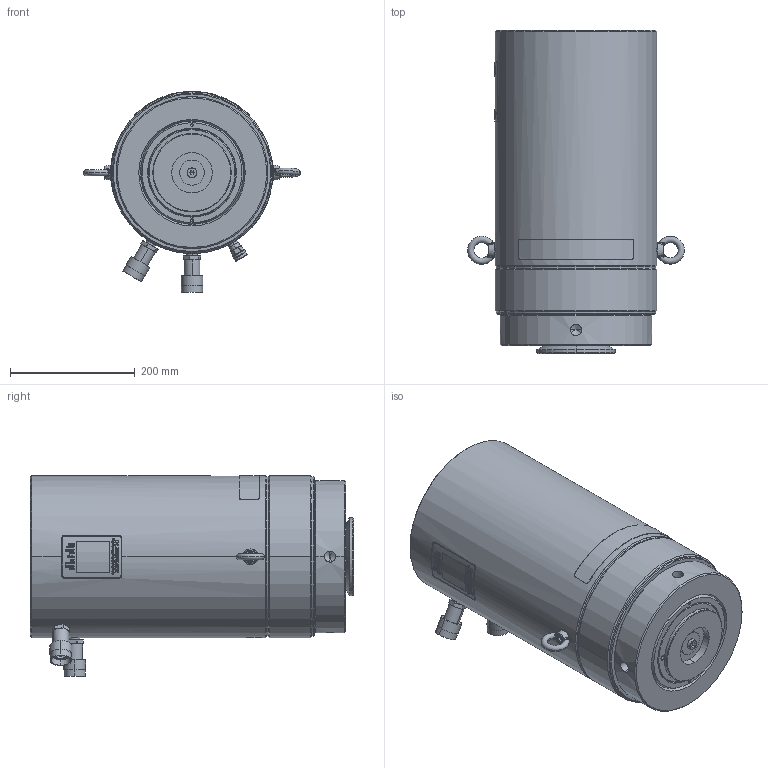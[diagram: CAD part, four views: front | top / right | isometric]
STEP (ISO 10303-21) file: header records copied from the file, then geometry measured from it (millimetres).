
FILE_DESCRIPTION((''),'2;1');
FILE_NAME('HCRL20010','2018-06-01T',('mike.ward'),(''),'CREO PARAMETRIC BY PTC INC, 2017020','CREO PARAMETRIC BY PTC INC, 2017020','');
FILE_SCHEMA(('CONFIG_CONTROL_DESIGN'));
Products named in the file (1): HCRL20010
Bounding box: 347.83 x 518.88 x 322.65 mm (x, y, z)
Volume: 22022175.2 mm3; surface area: 1372730.2 mm2
Topology: 1 solids, 5 shells, 2440 faces, 6390 edges, 4131 vertices
Faces by surface type: bspline 1050, plane 691, cylinder 397, cone 153, torus 145, sphere 4
Entity records: 134751 total; most frequent: CARTESIAN_POINT 80992, ORIENTED_EDGE 12714, DIRECTION 8396, EDGE_CURVE 6357, VERTEX_POINT 4131, AXIS2_PLACEMENT_3D 2851, VECTOR 2694, LINE 2694
